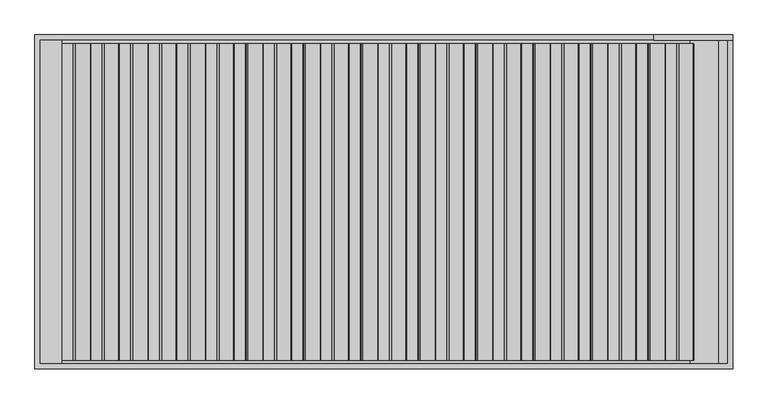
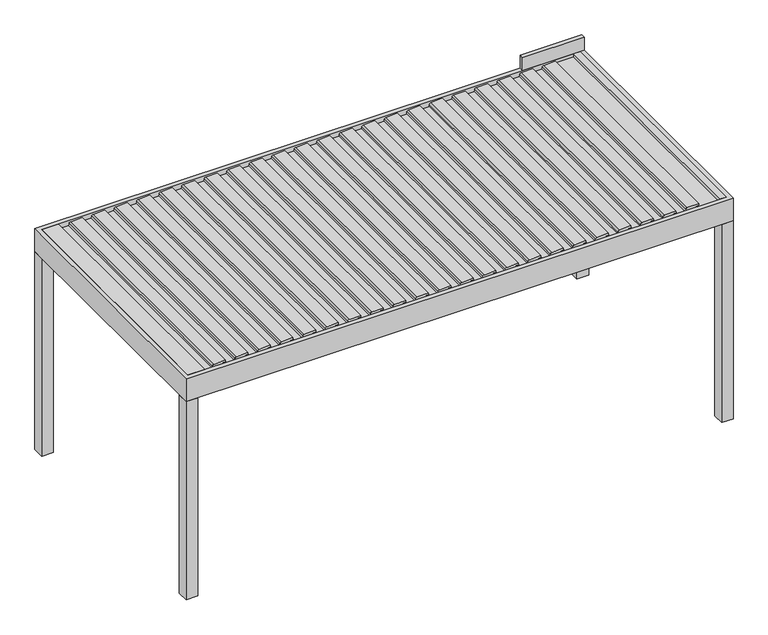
"""IFC4 building model written with IfcOpenShell, lengths in millimetres: proxy geometry, Renson_Algarve_Single : Algarve - Single."""

from ifc_helpers import new_model, si_unit, point, frame, frame_2d, origin, origin_with_axes, place, context, project, spatial, polyline, circle_curve, trimmed, segment, composite_curve, outline, extrude, faceted_brep, source, transform, mapped, element, save


def generic_models_dd638f6f(model_context):
    return source(origin(), model_context, "Body", "SolidModel", [
        extrude(outline(composite_curve([segment(polyline([(2188.35, 2074.6139893), (2216.01198, 2077.034099), (2217.3970364, 2105.8693494), (2236.8911096, 2102.4320183), (2231.6075693, 1992.4349035)]), True, "CONTINUOUS"), segment(trimmed(circle_curve(frame_2d((2216.6248435, 1993.1545754)), 15.0), [point((2231.6075693, 1992.4349035))], [point((2219.2295662, 1978.3824591))], False, "CARTESIAN"), True, "CONTINUOUS"), segment(polyline([(2219.2295662, 1978.3824591), (2200.0, 1974.9917678), (2200.0, 1887.2559918), (2217.0788237, 1884.2445343), (2216.3450182, 1868.9675639), (2188.35, 1866.5183171), (2188.35, 2074.6139893)]), True, "CONTINUOUS")], self_intersect=False)), frame((0.0, -1185.0, 0.0), z_axis=(0.0, 1.0, 0.0), x_axis=(0.0, 0.0, 1.0)), (0.0, 0.0, 1.0), 2370.0),
        extrude(outline(composite_curve([segment(polyline([(2188.35, 1859.6057571), (2216.01198, 1862.0258667), (2217.3970364, 1890.8611172), (2236.8911096, 1887.4237861), (2231.6075693, 1777.4266713)]), True, "CONTINUOUS"), segment(trimmed(circle_curve(frame_2d((2216.6248435, 1778.1463432)), 15.0), [point((2231.6075693, 1777.4266713))], [point((2219.2295662, 1763.3742269))], False, "CARTESIAN"), True, "CONTINUOUS"), segment(polyline([(2219.2295662, 1763.3742269), (2200.0, 1759.9835356), (2200.0, 1672.2477595), (2217.0788237, 1669.2363021), (2216.3450182, 1653.9593317), (2188.35, 1651.5100849), (2188.35, 1859.6057571)]), True, "CONTINUOUS")], self_intersect=False)), frame((0.0, -1185.0, 0.0), z_axis=(0.0, 1.0, 0.0), x_axis=(0.0, 0.0, 1.0)), (0.0, 0.0, 1.0), 2370.0),
        extrude(outline(composite_curve([segment(polyline([(2188.35, 1644.5975249), (2216.01198, 1647.0176345), (2217.3970364, 1675.852885), (2236.8911096, 1672.4155539), (2231.6075693, 1562.4184391)]), True, "CONTINUOUS"), segment(trimmed(circle_curve(frame_2d((2216.6248435, 1563.138111)), 15.0), [point((2231.6075693, 1562.4184391))], [point((2219.2295662, 1548.3659947))], False, "CARTESIAN"), True, "CONTINUOUS"), segment(polyline([(2219.2295662, 1548.3659947), (2200.0, 1544.9753034), (2200.0, 1457.2395273), (2217.0788237, 1454.2280699), (2216.3450182, 1438.9510994), (2188.35, 1436.5018527), (2188.35, 1644.5975249)]), True, "CONTINUOUS")], self_intersect=False)), frame((0.0, -1185.0, 0.0), z_axis=(0.0, 1.0, 0.0), x_axis=(0.0, 0.0, 1.0)), (0.0, 0.0, 1.0), 2370.0),
        extrude(outline(composite_curve([segment(polyline([(2188.35, 1429.5892927), (2216.01198, 1432.0094023), (2217.3970364, 1460.8446528), (2236.8911096, 1457.4073217), (2231.6075693, 1347.4102069)]), True, "CONTINUOUS"), segment(trimmed(circle_curve(frame_2d((2216.6248435, 1348.1298788)), 15.0), [point((2231.6075693, 1347.4102069))], [point((2219.2295662, 1333.3577625))], False, "CARTESIAN"), True, "CONTINUOUS"), segment(polyline([(2219.2295662, 1333.3577625), (2200.0, 1329.9670711), (2200.0, 1242.2312951), (2217.0788237, 1239.2198377), (2216.3450182, 1223.9428672), (2188.35, 1221.4936205), (2188.35, 1429.5892927)]), True, "CONTINUOUS")], self_intersect=False)), frame((0.0, -1185.0, 0.0), z_axis=(0.0, 1.0, 0.0), x_axis=(0.0, 0.0, 1.0)), (0.0, 0.0, 1.0), 2370.0),
        extrude(outline(composite_curve([segment(polyline([(2188.35, 1214.5810604), (2216.01198, 1217.0011701), (2217.3970364, 1245.8364206), (2236.8911096, 1242.3990895), (2231.6075693, 1132.4019746)]), True, "CONTINUOUS"), segment(trimmed(circle_curve(frame_2d((2216.6248435, 1133.1216466)), 15.0), [point((2231.6075693, 1132.4019746))], [point((2219.2295662, 1118.3495303))], False, "CARTESIAN"), True, "CONTINUOUS"), segment(polyline([(2219.2295662, 1118.3495303), (2200.0, 1114.9588389), (2200.0, 1027.2230629), (2217.0788237, 1024.2116055), (2216.3450182, 1008.934635), (2188.35, 1006.4853883), (2188.35, 1214.5810604)]), True, "CONTINUOUS")], self_intersect=False)), frame((0.0, -1185.0, 0.0), z_axis=(0.0, 1.0, 0.0), x_axis=(0.0, 0.0, 1.0)), (0.0, 0.0, 1.0), 2370.0),
        extrude(outline(composite_curve([segment(polyline([(2188.35, 999.5728282), (2216.01198, 1001.9929379), (2217.3970364, 1030.8281883), (2236.8911096, 1027.3908573), (2231.6075693, 917.3937424)]), True, "CONTINUOUS"), segment(trimmed(circle_curve(frame_2d((2216.6248435, 918.1134143)), 15.0), [point((2231.6075693, 917.3937424))], [point((2219.2295662, 903.3412981))], False, "CARTESIAN"), True, "CONTINUOUS"), segment(polyline([(2219.2295662, 903.3412981), (2200.0, 899.9506067), (2200.0, 812.2148307), (2217.0788237, 809.2033733), (2216.3450182, 793.9264028), (2188.35, 791.4771561), (2188.35, 999.5728282)]), True, "CONTINUOUS")], self_intersect=False)), frame((0.0, -1185.0, 0.0), z_axis=(0.0, 1.0, 0.0), x_axis=(0.0, 0.0, 1.0)), (0.0, 0.0, 1.0), 2370.0),
        extrude(outline(composite_curve([segment(polyline([(2188.35, 784.564596), (2216.01198, 786.9847057), (2217.3970364, 815.8199561), (2236.8911096, 812.3826251), (2231.6075693, 702.3855102)]), True, "CONTINUOUS"), segment(trimmed(circle_curve(frame_2d((2216.6248435, 703.1051821)), 15.0), [point((2231.6075693, 702.3855102))], [point((2219.2295662, 688.3330658))], False, "CARTESIAN"), True, "CONTINUOUS"), segment(polyline([(2219.2295662, 688.3330658), (2200.0, 684.9423745), (2200.0, 597.2065985), (2217.0788237, 594.1951411), (2216.3450182, 578.9181706), (2188.35, 576.4689239), (2188.35, 784.564596)]), True, "CONTINUOUS")], self_intersect=False)), frame((0.0, -1185.0, 0.0), z_axis=(0.0, 1.0, 0.0), x_axis=(0.0, 0.0, 1.0)), (0.0, 0.0, 1.0), 2370.0),
        extrude(outline(composite_curve([segment(polyline([(2188.35, 569.5563638), (2216.01198, 571.9764735), (2217.3970364, 600.8117239), (2236.8911096, 597.3743928), (2231.6075693, 487.377278)]), True, "CONTINUOUS"), segment(trimmed(circle_curve(frame_2d((2216.6248435, 488.0969499)), 15.0), [point((2231.6075693, 487.377278))], [point((2219.2295662, 473.3248336))], False, "CARTESIAN"), True, "CONTINUOUS"), segment(polyline([(2219.2295662, 473.3248336), (2200.0, 469.9341423), (2200.0, 382.1983663), (2217.0788237, 379.1869088), (2216.3450182, 363.9099384), (2188.35, 361.4606916), (2188.35, 569.5563638)]), True, "CONTINUOUS")], self_intersect=False)), frame((0.0, -1185.0, 0.0), z_axis=(0.0, 1.0, 0.0), x_axis=(0.0, 0.0, 1.0)), (0.0, 0.0, 1.0), 2370.0),
        extrude(outline(composite_curve([segment(polyline([(2188.35, 354.5481316), (2216.01198, 356.9682412), (2217.3970364, 385.8034917), (2236.8911096, 382.3661606), (2231.6075693, 272.3690458)]), True, "CONTINUOUS"), segment(trimmed(circle_curve(frame_2d((2216.6248435, 273.0887177)), 15.0), [point((2231.6075693, 272.3690458))], [point((2219.2295662, 258.3166014))], False, "CARTESIAN"), True, "CONTINUOUS"), segment(polyline([(2219.2295662, 258.3166014), (2200.0, 254.9259101), (2200.0, 167.190134), (2217.0788237, 164.1786766), (2216.3450182, 148.9017062), (2188.35, 146.4524594), (2188.35, 354.5481316)]), True, "CONTINUOUS")], self_intersect=False)), frame((0.0, -1185.0, 0.0), z_axis=(0.0, 1.0, 0.0), x_axis=(0.0, 0.0, 1.0)), (0.0, 0.0, 1.0), 2370.0),
        extrude(outline(composite_curve([segment(polyline([(2188.35, 139.5398994), (2216.01198, 141.960009), (2217.3970364, 170.7952595), (2236.8911096, 167.3579284), (2231.6075693, 57.3608136)]), True, "CONTINUOUS"), segment(trimmed(circle_curve(frame_2d((2216.6248435, 58.0804855)), 15.0), [point((2231.6075693, 57.3608136))], [point((2219.2295662, 43.3083692))], False, "CARTESIAN"), True, "CONTINUOUS"), segment(polyline([(2219.2295662, 43.3083692), (2200.0, 39.9176779), (2200.0, -47.8180982), (2217.0788237, -50.8295556), (2216.3450182, -66.1065261), (2188.35, -68.5557728), (2188.35, 139.5398994)]), True, "CONTINUOUS")], self_intersect=False)), frame((0.0, -1185.0, 0.0), z_axis=(0.0, 1.0, 0.0), x_axis=(0.0, 0.0, 1.0)), (0.0, 0.0, 1.0), 2370.0),
        extrude(outline(composite_curve([segment(polyline([(2188.35, -75.4683328), (2216.01198, -73.0482232), (2217.3970364, -44.2129727), (2236.8911096, -47.6503038), (2231.6075693, -157.6474187)]), True, "CONTINUOUS"), segment(trimmed(circle_curve(frame_2d((2216.6248435, -156.9277467)), 15.0), [point((2231.6075693, -157.6474187))], [point((2219.2295662, -171.699863))], False, "CARTESIAN"), True, "CONTINUOUS"), segment(polyline([(2219.2295662, -171.699863), (2200.0, -175.0905544), (2200.0, -262.8263304), (2217.0788237, -265.8377878), (2216.3450182, -281.1147583), (2188.35, -283.564005), (2188.35, -75.4683328)]), True, "CONTINUOUS")], self_intersect=False)), frame((0.0, -1185.0, 0.0), z_axis=(0.0, 1.0, 0.0), x_axis=(0.0, 0.0, 1.0)), (0.0, 0.0, 1.0), 2370.0),
        extrude(outline(composite_curve([segment(polyline([(2188.35, -290.4765651), (2216.01198, -288.0564554), (2217.3970364, -259.2212049), (2236.8911096, -262.658536), (2231.6075693, -372.6556509)]), True, "CONTINUOUS"), segment(trimmed(circle_curve(frame_2d((2216.6248435, -371.9359789)), 15.0), [point((2231.6075693, -372.6556509))], [point((2219.2295662, -386.7080952))], False, "CARTESIAN"), True, "CONTINUOUS"), segment(polyline([(2219.2295662, -386.7080952), (2200.0, -390.0987866), (2200.0, -477.8345626), (2217.0788237, -480.84602), (2216.3450182, -496.1229905), (2188.35, -498.5722372), (2188.35, -290.4765651)]), True, "CONTINUOUS")], self_intersect=False)), frame((0.0, -1185.0, 0.0), z_axis=(0.0, 1.0, 0.0), x_axis=(0.0, 0.0, 1.0)), (0.0, 0.0, 1.0), 2370.0),
        extrude(outline(composite_curve([segment(polyline([(2188.35, -505.4847973), (2216.01198, -503.0646876), (2217.3970364, -474.2294372), (2236.8911096, -477.6667682), (2231.6075693, -587.6638831)]), True, "CONTINUOUS"), segment(trimmed(circle_curve(frame_2d((2216.6248435, -586.9442112)), 15.0), [point((2231.6075693, -587.6638831))], [point((2219.2295662, -601.7163274))], False, "CARTESIAN"), True, "CONTINUOUS"), segment(polyline([(2219.2295662, -601.7163274), (2200.0, -605.1070188), (2200.0, -692.8427948), (2217.0788237, -695.8542522), (2216.3450182, -711.1312227), (2188.35, -713.5804694), (2188.35, -505.4847973)]), True, "CONTINUOUS")], self_intersect=False)), frame((0.0, -1185.0, 0.0), z_axis=(0.0, 1.0, 0.0), x_axis=(0.0, 0.0, 1.0)), (0.0, 0.0, 1.0), 2370.0),
        extrude(outline(composite_curve([segment(polyline([(2188.35, -720.4930295), (2216.01198, -718.0729198), (2217.3970364, -689.2376694), (2236.8911096, -692.6750004), (2231.6075693, -802.6721153)]), True, "CONTINUOUS"), segment(trimmed(circle_curve(frame_2d((2216.6248435, -801.9524434)), 15.0), [point((2231.6075693, -802.6721153))], [point((2219.2295662, -816.7245597))], False, "CARTESIAN"), True, "CONTINUOUS"), segment(polyline([(2219.2295662, -816.7245597), (2200.0, -820.115251), (2200.0, -907.851027), (2217.0788237, -910.8624844), (2216.3450182, -926.1394549), (2188.35, -928.5887016), (2188.35, -720.4930295)]), True, "CONTINUOUS")], self_intersect=False)), frame((0.0, -1185.0, 0.0), z_axis=(0.0, 1.0, 0.0), x_axis=(0.0, 0.0, 1.0)), (0.0, 0.0, 1.0), 2370.0),
        extrude(outline(composite_curve([segment(polyline([(2188.35, -935.5012617), (2216.01198, -933.081152), (2217.3970364, -904.2459016), (2236.8911096, -907.6832327), (2231.6075693, -1017.6803475)]), True, "CONTINUOUS"), segment(trimmed(circle_curve(frame_2d((2216.6248435, -1016.9606756)), 15.0), [point((2231.6075693, -1017.6803475))], [point((2219.2295662, -1031.7327919))], False, "CARTESIAN"), True, "CONTINUOUS"), segment(polyline([(2219.2295662, -1031.7327919), (2200.0, -1035.1234832), (2200.0, -1122.8592592), (2217.0788237, -1125.8707167), (2216.3450182, -1141.1476871), (2188.35, -1143.5969339), (2188.35, -935.5012617)]), True, "CONTINUOUS")], self_intersect=False)), frame((0.0, -1185.0, 0.0), z_axis=(0.0, 1.0, 0.0), x_axis=(0.0, 0.0, 1.0)), (0.0, 0.0, 1.0), 2370.0),
        extrude(outline(composite_curve([segment(polyline([(2188.35, -1150.5094939), (2216.01198, -1148.0893843), (2217.3970364, -1119.2541338), (2236.8911096, -1122.6914649), (2231.6075693, -1232.6885797)]), True, "CONTINUOUS"), segment(trimmed(circle_curve(frame_2d((2216.6248435, -1231.9689078)), 15.0), [point((2231.6075693, -1232.6885797))], [point((2219.2295662, -1246.7410241))], False, "CARTESIAN"), True, "CONTINUOUS"), segment(polyline([(2219.2295662, -1246.7410241), (2200.0, -1250.1317154), (2200.0, -1337.8674915), (2217.0788237, -1340.8789489), (2216.3450182, -1356.1559194), (2188.35, -1358.6051661), (2188.35, -1150.5094939)]), True, "CONTINUOUS")], self_intersect=False)), frame((0.0, -1185.0, 0.0), z_axis=(0.0, 1.0, 0.0), x_axis=(0.0, 0.0, 1.0)), (0.0, 0.0, 1.0), 2370.0),
        extrude(outline(composite_curve([segment(polyline([(2188.35, -1365.5177261), (2216.01198, -1363.0976165), (2217.3970364, -1334.262366), (2236.8911096, -1337.6996971), (2231.6075693, -1447.6968119)]), True, "CONTINUOUS"), segment(trimmed(circle_curve(frame_2d((2216.6248435, -1446.97714)), 15.0), [point((2231.6075693, -1447.6968119))], [point((2219.2295662, -1461.7492563))], False, "CARTESIAN"), True, "CONTINUOUS"), segment(polyline([(2219.2295662, -1461.7492563), (2200.0, -1465.1399476), (2200.0, -1552.8757237), (2217.0788237, -1555.8871811), (2216.3450182, -1571.1641516), (2188.35, -1573.6133983), (2188.35, -1365.5177261)]), True, "CONTINUOUS")], self_intersect=False)), frame((0.0, -1185.0, 0.0), z_axis=(0.0, 1.0, 0.0), x_axis=(0.0, 0.0, 1.0)), (0.0, 0.0, 1.0), 2370.0),
        extrude(outline(composite_curve([segment(polyline([(2188.35, -1580.5259583), (2216.01198, -1578.1058487), (2217.3970364, -1549.2705982), (2236.8911096, -1552.7079293), (2231.6075693, -1662.7050442)]), True, "CONTINUOUS"), segment(trimmed(circle_curve(frame_2d((2216.6248435, -1661.9853722)), 15.0), [point((2231.6075693, -1662.7050442))], [point((2219.2295662, -1676.7574885))], False, "CARTESIAN"), True, "CONTINUOUS"), segment(polyline([(2219.2295662, -1676.7574885), (2200.0, -1680.1481799), (2200.0, -1767.8839559), (2217.0788237, -1770.8954133), (2216.3450182, -1786.1723838), (2188.35, -1788.6216305), (2188.35, -1580.5259583)]), True, "CONTINUOUS")], self_intersect=False)), frame((0.0, -1185.0, 0.0), z_axis=(0.0, 1.0, 0.0), x_axis=(0.0, 0.0, 1.0)), (0.0, 0.0, 1.0), 2370.0),
        extrude(outline(composite_curve([segment(polyline([(2188.35, -1795.5341906), (2216.01198, -1793.1140809), (2217.3970364, -1764.2788304), (2236.8911096, -1767.7161615), (2231.6075693, -1877.7132764)]), True, "CONTINUOUS"), segment(trimmed(circle_curve(frame_2d((2216.6248435, -1876.9936044)), 15.0), [point((2231.6075693, -1877.7132764))], [point((2219.2295662, -1891.7657207))], False, "CARTESIAN"), True, "CONTINUOUS"), segment(polyline([(2219.2295662, -1891.7657207), (2200.0, -1895.1564121), (2200.0, -1982.8921881), (2217.0788237, -1985.9036455), (2216.3450182, -2001.180616), (2188.35, -2003.6298627), (2188.35, -1795.5341906)]), True, "CONTINUOUS")], self_intersect=False)), frame((0.0, -1185.0, 0.0), z_axis=(0.0, 1.0, 0.0), x_axis=(0.0, 0.0, 1.0)), (0.0, 0.0, 1.0), 2370.0),
        extrude(outline(composite_curve([segment(polyline([(2188.35, -2010.5424228), (2216.01198, -2008.1223131), (2217.3970364, -1979.2870627), (2236.8911096, -1982.7243937), (2231.6075693, -2092.7215086)]), True, "CONTINUOUS"), segment(trimmed(circle_curve(frame_2d((2216.6248435, -2092.0018367)), 15.0), [point((2231.6075693, -2092.7215086))], [point((2219.2295662, -2106.7739529))], False, "CARTESIAN"), True, "CONTINUOUS"), segment(polyline([(2219.2295662, -2106.7739529), (2200.0, -2110.1646443), (2200.0, -2197.9004203), (2217.0788237, -2200.9118777), (2216.3450182, -2216.1888482), (2188.35, -2218.6380949), (2188.35, -2010.5424228)]), True, "CONTINUOUS")], self_intersect=False)), frame((0.0, -1185.0, 0.0), z_axis=(0.0, 1.0, 0.0), x_axis=(0.0, 0.0, 1.0)), (0.0, 0.0, 1.0), 2370.0),
        extrude(outline(composite_curve([segment(polyline([(2188.35, 2289.6222215), (2216.01198, 2292.0423312), (2217.3970364, 2320.8775816), (2236.8911096, 2317.4402506), (2231.6075693, 2207.4431357)]), True, "CONTINUOUS"), segment(trimmed(circle_curve(frame_2d((2216.6248435, 2208.1628076)), 15.0), [point((2231.6075693, 2207.4431357))], [point((2219.2295662, 2193.3906913))], False, "CARTESIAN"), True, "CONTINUOUS"), segment(polyline([(2219.2295662, 2193.3906913), (2200.0, 2190.0), (2200.0, 2102.264224), (2217.0788237, 2099.2527666), (2216.3450182, 2083.9757961), (2188.35, 2081.5265494), (2188.35, 2289.6222215)]), True, "CONTINUOUS")], self_intersect=False)), frame((0.0, -1185.0, 0.0), z_axis=(0.0, 1.0, 0.0), x_axis=(0.0, 0.0, 1.0)), (0.0, 0.0, 1.0), 2370.0),
        extrude(outline(composite_curve([segment(polyline([(2188.35, -2225.550655), (2216.01198, -2223.1305453), (2217.3970364, -2194.2952949), (2236.8911096, -2197.7326259), (2231.6075693, -2307.7297408)]), True, "CONTINUOUS"), segment(trimmed(circle_curve(frame_2d((2216.6248435, -2307.0100689)), 15.0), [point((2231.6075693, -2307.7297408))], [point((2219.2295662, -2321.7821852))], False, "CARTESIAN"), True, "CONTINUOUS"), segment(polyline([(2219.2295662, -2321.7821852), (2200.0, -2325.1728765), (2200.0, -2412.9086525), (2217.0788237, -2415.9201099), (2216.3450182, -2431.1970804), (2188.35, -2433.6463271), (2188.35, -2225.550655)]), True, "CONTINUOUS")], self_intersect=False)), frame((0.0, -1185.0, 0.0), z_axis=(0.0, 1.0, 0.0), x_axis=(0.0, 0.0, 1.0)), (0.0, 0.0, 1.0), 2370.0),
        extrude(outline(polyline([(2168.0, 2570.0), (2230.0, 2570.0), (2230.0, 2506.0), (2198.0, 2506.0), (2198.0, 2295.0), (2168.0, 2295.0), (2168.0, 2570.0)])), frame((0.0, -1210.0, 0.0), z_axis=(0.0, 1.0, 0.0), x_axis=(0.0, 0.0, 1.0)), (0.0, 0.0, 1.0), 2420.0),
        extrude(outline(polyline([(2230.0, -2410.0), (2230.0, -2570.0), (2186.0, -2570.0), (2186.0, -2437.3193336), (2219.1716603, -2434.4171894), (2220.344502, -2410.0), (2230.0, -2410.0)])), frame((0.0, -1210.0, 0.0), z_axis=(0.0, 1.0, 0.0), x_axis=(0.0, 0.0, 1.0)), (0.0, 0.0, 1.0), 2420.0),
        faceted_brep([(2500.0, 1140.0, 2057.0), (2500.0, 1140.0, 2000.0), (2500.0, -1140.0, 2000.0), (2500.0, -1140.0, 2057.0), (2610.0, 1250.0, 2000.0), (2610.0, 1250.0, 2230.0), (2610.0, -1250.0, 2230.0), (2610.0, -1250.0, 2000.0), (2570.0, 1210.0, 2230.0), (2570.0, 1210.0, 2057.0), (2570.0, -1210.0, 2057.0), (2570.0, -1210.0, 2230.0), (-2500.0, -1140.0, 2000.0), (-2500.0, -1140.0, 2057.0), (-2610.0, -1250.0, 2230.0), (-2610.0, -1250.0, 2000.0), (-2570.0, -1210.0, 2057.0), (-2570.0, -1210.0, 2230.0), (-2500.0, 1140.0, 2000.0), (-2500.0, 1140.0, 2057.0), (-2610.0, 1250.0, 2230.0), (-2610.0, 1250.0, 2000.0), (-2570.0, 1210.0, 2057.0), (-2570.0, 1210.0, 2230.0)], [[[0, 1, 2, 3]], [[4, 5, 6, 7]], [[8, 9, 10, 11]], [[3, 2, 12, 13]], [[7, 6, 14, 15]], [[11, 10, 16, 17]], [[13, 12, 18, 19]], [[15, 14, 20, 21]], [[17, 16, 22, 23]], [[9, 22, 16, 10], [3, 13, 19, 0]], [[19, 18, 1, 0]], [[7, 15, 21, 4], [1, 18, 12, 2]], [[21, 20, 5, 4]], [[5, 20, 14, 6], [11, 17, 23, 8]], [[23, 22, 9, 8]]]),
        extrude(outline(polyline([(2610.0, 1250.0), (2610.0, 1140.0), (2500.0, 1140.0), (2500.0, 1250.0), (2610.0, 1250.0)])), origin_with_axes(), (0.0, 0.0, 1.0), 2000.0),
        extrude(outline(polyline([(2610.0, -1140.0), (2610.0, -1250.0), (2500.0, -1250.0), (2500.0, -1140.0), (2610.0, -1140.0)])), origin_with_axes(), (0.0, 0.0, 1.0), 2000.0),
        extrude(outline(polyline([(-2500.0, -1140.0), (-2500.0, -1250.0), (-2610.0, -1250.0), (-2610.0, -1140.0), (-2500.0, -1140.0)])), origin_with_axes(), (0.0, 0.0, 1.0), 2000.0),
        extrude(outline(polyline([(-2500.0, 1250.0), (-2500.0, 1140.0), (-2610.0, 1140.0), (-2610.0, 1250.0), (-2500.0, 1250.0)])), origin_with_axes(), (0.0, 0.0, 1.0), 2000.0),
        extrude(outline(polyline([(2610.0, 1250.0), (2610.0, 1210.0), (2020.0, 1210.0), (2020.0, 1250.0), (2610.0, 1250.0)])), frame((0.0, 0.0, 2230.0), z_axis=(0.0, 0.0, 1.0), x_axis=(1.0, 0.0, 0.0)), (0.0, 0.0, 1.0), 130.0),
    ])


if __name__ == "__main__":
    model = new_model("IFC4")
    model_context = context("Model", 3, world=origin())
    ifc_project = project(units=[si_unit("LENGTHUNIT", "METRE", prefix="MILLI")], contexts=[model_context])
    site = spatial("IfcSite", under=ifc_project)
    building = spatial("IfcBuilding", under=site)
    placement = place(None, origin())
    generic_models_shape = generic_models_dd638f6f(model_context)
    element("IfcBuildingElementProxy", 1, Name="Renson_Algarve_Single : Algarve - Single", ObjectType="Renson_Algarve_Single : Algarve - Single", at=placement, inside=building, context=model_context, shape_type="MappedRepresentation", body=[
        mapped(generic_models_shape, transform((0.0, 0.0, 0.0), x_axis=(1.0, 0.0, 0.0), y_axis=(0.0, 1.0, 0.0), z_axis=(0.0, 0.0, 1.0))),
    ])
    save(model, "model.ifc")
